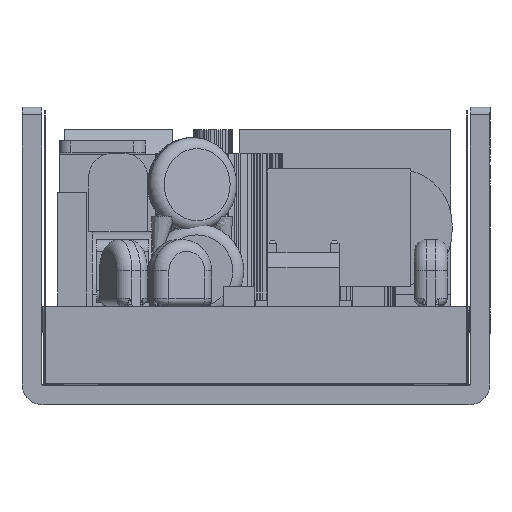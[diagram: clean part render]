
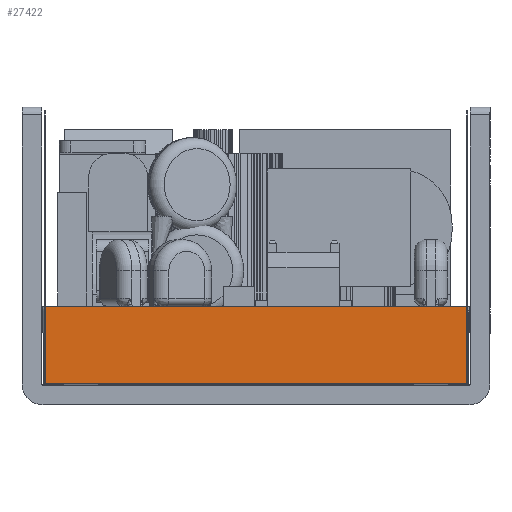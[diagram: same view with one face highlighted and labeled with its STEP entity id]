
A CAD part, left-side view. The second image highlights one B-rep face of the part: STEP entity #27422.
In plain terms, the highlighted planar face has unit normal (-1, 0, -0.009) as drawn and (0, -1, -0.009) by its records, which use the part's own axes.
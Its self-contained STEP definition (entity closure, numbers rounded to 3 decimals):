
#1507=LINE($,#38355,#4912);
#1509=LINE($,#38360,#4914);
#1513=LINE($,#38370,#4918);
#1515=LINE($,#38373,#4920);
#4912=VECTOR($,#31293,53.803);
#4914=VECTOR($,#31299,9.802);
#4918=VECTOR($,#31311,9.802);
#4920=VECTOR($,#31315,53.975);
#8215=PLANE($,#29040);
#9761=FACE_OUTER_BOUND($,#11295,.T.);
#11295=EDGE_LOOP($,(#20080,#20081,#20082,#20083));
#13300=VERTEX_POINT($,#38342);
#13304=VERTEX_POINT($,#38351);
#13305=VERTEX_POINT($,#38358);
#13307=VERTEX_POINT($,#38368);
#15951=EDGE_CURVE($,#13300,#13304,#1507,.T.);
#15954=EDGE_CURVE($,#13304,#13305,#1509,.T.);
#15959=EDGE_CURVE($,#13307,#13300,#1513,.T.);
#15961=EDGE_CURVE($,#13307,#13305,#1515,.T.);
#20080=ORIENTED_EDGE($,*,*,#15954,.F.);
#20081=ORIENTED_EDGE($,*,*,#15951,.F.);
#20082=ORIENTED_EDGE($,*,*,#15959,.F.);
#20083=ORIENTED_EDGE($,*,*,#15961,.T.);
#27422=ADVANCED_FACE($,(#9761),#8215,.T.);
#29040=AXIS2_PLACEMENT_3D($,#38372,#31313,#31314);
#31293=DIRECTION($,(-1.,0.,0.));
#31299=DIRECTION($,(-0.009,-0.009,1.));
#31311=DIRECTION($,(-0.009,0.009,-1.));
#31313=DIRECTION('center_axis',(0.,-1.,-0.009));
#31314=DIRECTION('ref_axis',(1.,0.,0.));
#31315=DIRECTION($,(-1.,0.,0.));
#38342=CARTESIAN_POINT('',(54.002,-0.002,0.198));
#38351=CARTESIAN_POINT('',(0.198,-0.002,0.198));
#38355=CARTESIAN_POINT($,(40.65,-0.002,0.198));
#38358=CARTESIAN_POINT('',(0.113,-0.087,10.));
#38360=CARTESIAN_POINT($,(0.202,0.002,-0.235));
#38368=CARTESIAN_POINT('',(54.087,-0.087,10.));
#38370=CARTESIAN_POINT($,(54.,0.,-0.042));
#38372=CARTESIAN_POINT('Origin',(54.2,0.,0.));
#38373=CARTESIAN_POINT($,(0.,-0.087,10.));
